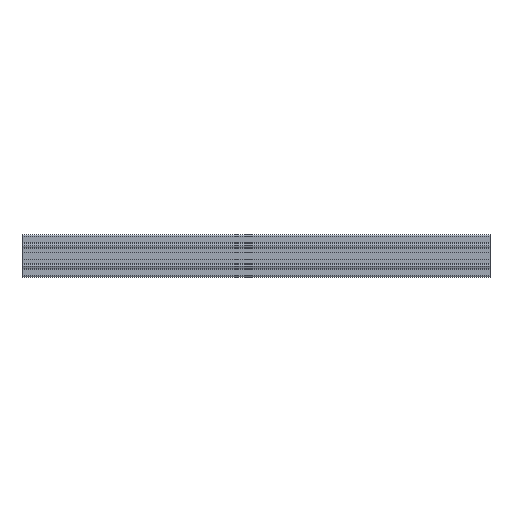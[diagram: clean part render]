
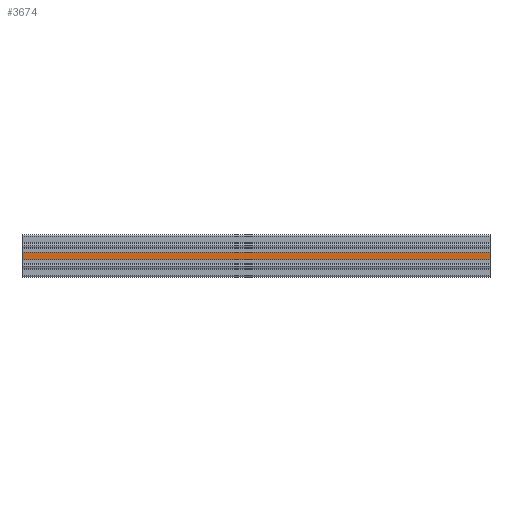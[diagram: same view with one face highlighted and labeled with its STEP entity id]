
A CAD part, front view. The second image highlights one B-rep face of the part: STEP entity #3674.
In plain terms, the highlighted planar face has unit normal (0, -1, 0).
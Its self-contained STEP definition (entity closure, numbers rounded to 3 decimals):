
#630 = EDGE_LOOP ( 'NONE', ( #1593, #2081, #9135, #2235 ) ) ;
#889 = DIRECTION ( 'NONE',  ( 0., 0., -1. ) ) ;
#1336 = DIRECTION ( 'NONE',  ( 1., 0., 0. ) ) ;
#1573 = VECTOR ( 'NONE', #1336, 1000. ) ;
#1593 = ORIENTED_EDGE ( 'NONE', *, *, #3384, .F. ) ;
#2023 = CARTESIAN_POINT ( 'NONE',  ( 0., -22., 30. ) ) ;
#2081 = ORIENTED_EDGE ( 'NONE', *, *, #7926, .F. ) ;
#2235 = ORIENTED_EDGE ( 'NONE', *, *, #4240, .T. ) ;
#2237 = LINE ( 'NONE', #6216, #6336 ) ;
#2375 = EDGE_CURVE ( 'NONE', #7632, #8345, #6332, .T. ) ;
#2964 = CARTESIAN_POINT ( 'NONE',  ( 0., -22., 15. ) ) ;
#3252 = DIRECTION ( 'NONE',  ( 0., 0., -1. ) ) ;
#3384 = EDGE_CURVE ( 'NONE', #5705, #5859, #10284, .T. ) ;
#3470 = CARTESIAN_POINT ( 'NONE',  ( 1000., -22., 30. ) ) ;
#3601 = PLANE ( 'NONE',  #9816 ) ;
#3674 = ADVANCED_FACE ( 'NONE', ( #9877 ), #3601, .T. ) ;
#3881 = CARTESIAN_POINT ( 'NONE',  ( 0., -22., 15. ) ) ;
#4106 = CARTESIAN_POINT ( 'NONE',  ( 0., -22., 30. ) ) ;
#4240 = EDGE_CURVE ( 'NONE', #8345, #5859, #9985, .T. ) ;
#4466 = DIRECTION ( 'NONE',  ( 0., 0., -1. ) ) ;
#5382 = DIRECTION ( 'NONE',  ( 1., 0., 0. ) ) ;
#5705 = VERTEX_POINT ( 'NONE', #3470 ) ;
#5859 = VERTEX_POINT ( 'NONE', #9550 ) ;
#6063 = VECTOR ( 'NONE', #889, 1000. ) ;
#6216 = CARTESIAN_POINT ( 'NONE',  ( 0., -22., 30. ) ) ;
#6332 = LINE ( 'NONE', #4106, #6063 ) ;
#6336 = VECTOR ( 'NONE', #5382, 1000. ) ;
#7632 = VERTEX_POINT ( 'NONE', #9895 ) ;
#7926 = EDGE_CURVE ( 'NONE', #7632, #5705, #2237, .T. ) ;
#8133 = VECTOR ( 'NONE', #3252, 1000. ) ;
#8345 = VERTEX_POINT ( 'NONE', #3881 ) ;
#9135 = ORIENTED_EDGE ( 'NONE', *, *, #2375, .T. ) ;
#9328 = DIRECTION ( 'NONE',  ( 0., -1., 0. ) ) ;
#9550 = CARTESIAN_POINT ( 'NONE',  ( 1000., -22., 15. ) ) ;
#9784 = CARTESIAN_POINT ( 'NONE',  ( 1000., -22., 30. ) ) ;
#9816 = AXIS2_PLACEMENT_3D ( 'NONE', #2023, #9328, #4466 ) ;
#9877 = FACE_OUTER_BOUND ( 'NONE', #630, .T. ) ;
#9895 = CARTESIAN_POINT ( 'NONE',  ( 0., -22., 30. ) ) ;
#9985 = LINE ( 'NONE', #2964, #1573 ) ;
#10284 = LINE ( 'NONE', #9784, #8133 ) ;
